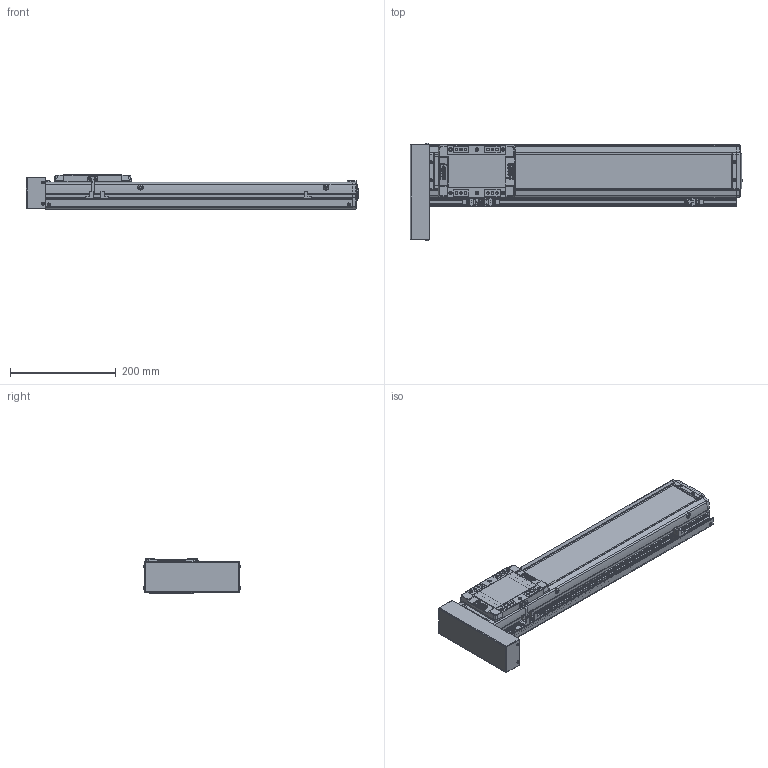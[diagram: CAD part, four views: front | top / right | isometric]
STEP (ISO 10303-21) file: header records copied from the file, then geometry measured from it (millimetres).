
FILE_DESCRIPTION(('STEP AP214'),'1');
FILE_NAME('Z:/Web/3D/SAN100/SAN100 양산용 (STEP)/SAN100ㅁㅁ-400PR+3SR.stp','2013-04-25T09:01:36',(' '),(' '),'Spatial InterOp 3D',' ',' ');
FILE_SCHEMA(('automotive_design'));
Length unit declared in the file: millimetre
Products named in the file (49): EE-SX674; SBK-SX674-352; 스크루 : Round - M3.0 x 6.0; M3.0 x 6.0; SRL-16x17-380L; SGD-SAN100; SUS COVER; SFX-SAN100; RRCV-SAN100; 스크루 : Round - M4.0 x 10.0; FRBL-SAN100; SLBL-SAN100; SLCV-SAN100; 스크루 : Countersunk - M3.0 x 6.0; BASE; 스크루 : Round - M5.0 x 6.0; BTCV-SAN65; BHCS M3 X 6L
Bounding box: 626.5 x 184.13 x 66 mm (x, y, z)
Volume: 2097086.8 mm3; surface area: 539774.1 mm2
Topology: 49 solids, 50 shells, 2369 faces, 6172 edges, 3997 vertices
Faces by surface type: plane 1282, cylinder 799, cone 190, sphere 64, torus 18, bspline 16
Entity records: 93380 total; most frequent: CARTESIAN_POINT 13897, DIRECTION 12979, ORIENTED_EDGE 12172, EDGE_CURVE 6086, AXIS2_PLACEMENT_3D 4580, VERTEX_POINT 3997, LINE 3819, VECTOR 3819
